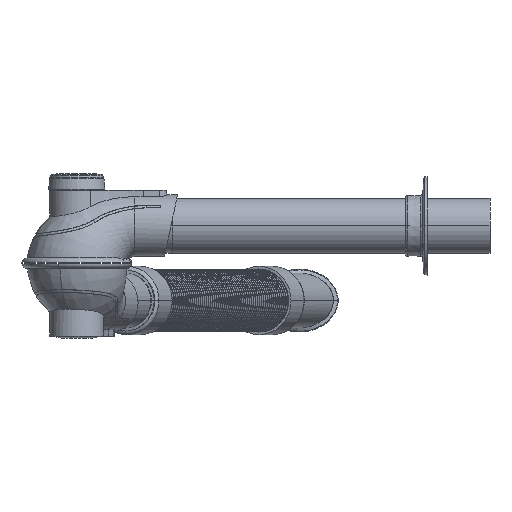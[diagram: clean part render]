
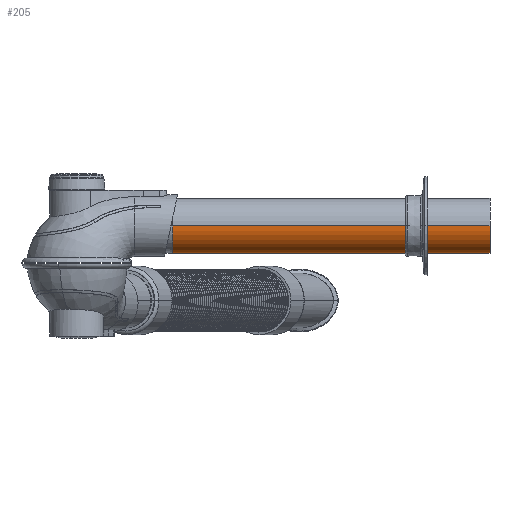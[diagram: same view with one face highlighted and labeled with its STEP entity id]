
A CAD part, left-side view. The second image highlights one B-rep face of the part: STEP entity #205.
In plain terms, the highlighted cylindrical face has radius 26.3 mm (diameter 52.6 mm), a partial arc.
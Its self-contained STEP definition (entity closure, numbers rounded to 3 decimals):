
#44=DIRECTION('',(-1.,0.,0.));
#45=VECTOR('',#44,303.307);
#46=CARTESIAN_POINT('',(0.,26.3,0.));
#47=LINE('',#46,#45);
#51=CARTESIAN_POINT('',(-303.307,0.,0.));
#52=DIRECTION('',(1.,0.,0.));
#53=DIRECTION('',(0.,-1.,0.));
#54=AXIS2_PLACEMENT_3D('',#51,#52,#53);
#59=DIRECTION('',(-1.,0.,0.));
#60=VECTOR('',#59,303.307);
#61=CARTESIAN_POINT('',(0.,-26.3,0.));
#62=LINE('',#61,#60);
#66=CARTESIAN_POINT('',(0.,0.,0.));
#67=DIRECTION('',(-1.,0.,0.));
#68=DIRECTION('',(0.,1.,0.));
#69=AXIS2_PLACEMENT_3D('',#66,#67,#68);
#136=CARTESIAN_POINT('',(0.,26.3,0.));
#137=CARTESIAN_POINT('',(0.,-26.3,0.));
#138=VERTEX_POINT('',#136);
#139=VERTEX_POINT('',#137);
#140=CARTESIAN_POINT('',(-303.307,26.3,0.));
#141=VERTEX_POINT('',#140);
#142=CARTESIAN_POINT('',(-303.307,-26.3,0.));
#143=VERTEX_POINT('',#142);
#193=CARTESIAN_POINT('',(-357.,0.,0.));
#194=DIRECTION('',(1.,0.,0.));
#195=DIRECTION('',(0.,-1.,0.));
#196=AXIS2_PLACEMENT_3D('',#193,#194,#195);
#197=CYLINDRICAL_SURFACE('',#196,26.3);
#198=ORIENTED_EDGE('',*,*,#176,.T.);
#200=ORIENTED_EDGE('',*,*,#199,.F.);
#201=ORIENTED_EDGE('',*,*,#179,.F.);
#202=ORIENTED_EDGE('',*,*,#159,.F.);
#203=EDGE_LOOP('',(#198,#200,#201,#202));
#204=FACE_OUTER_BOUND('',#203,.F.);
#55=CIRCLE('',#54,26.3);
#70=CIRCLE('',#69,26.3);
#159=EDGE_CURVE('',#138,#139,#70,.T.);
#176=EDGE_CURVE('',#138,#141,#47,.T.);
#179=EDGE_CURVE('',#139,#143,#62,.T.);
#199=EDGE_CURVE('',#143,#141,#55,.T.);
#205=ADVANCED_FACE('',(#204),#197,.T.);
